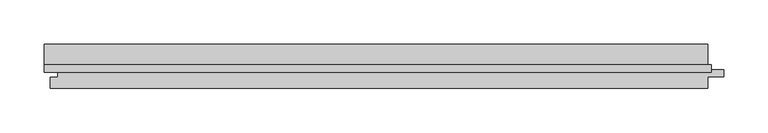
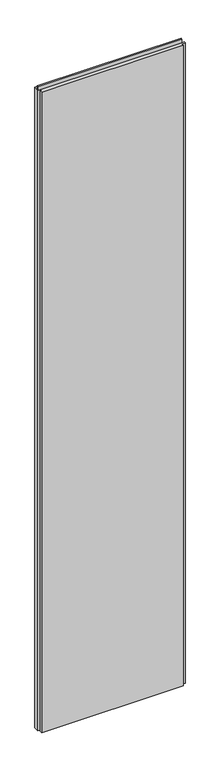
"""IFC4 building model written with IfcOpenShell, lengths in millimetres: plate geometry, Trimo_Qbiss Screen_Normal Panel-VERTICAL : HR - FB."""

from ifc_helpers import new_model, si_unit, frame, origin, place, context, project, spatial, polyline, outline, extrude, source, transform, mapped, element, save


def plate_2cf58c36(model_context):
    return source(origin(), model_context, "Body", "SweptSolid", [
        extrude(outline(polyline([(-425.0, 93.9), (-425.0, 102.6), (333.0, 102.6), (333.0, 93.9), (-425.0, 93.9)])), frame((0.0, 0.0, 3590.5), z_axis=(0.0, 0.0, 1.0), x_axis=(1.0, 0.0, 0.0)), (0.0, 0.0, 1.0), 19.0),
        extrude(outline(polyline([(329.0, 97.0), (347.5, 97.0), (347.5, 89.0), (329.0, 89.0), (329.0, 76.0), (-418.0, 76.0), (-418.0, 88.0), (-409.5, 88.0), (-409.5, 98.0), (-425.0, 98.0), (-425.0, 126.0), (329.0, 126.0), (329.0, 97.0)])), frame((0.0, 0.0, 12.5), z_axis=(0.0, 0.0, 1.0), x_axis=(1.0, 0.0, 0.0)), (0.0, 0.0, 1.0), 3575.0),
    ])


if __name__ == "__main__":
    model = new_model("IFC4")
    model_context = context("Model", 3, world=origin())
    ifc_project = project(units=[si_unit("LENGTHUNIT", "METRE", prefix="MILLI")], contexts=[model_context])
    site = spatial("IfcSite", under=ifc_project)
    building = spatial("IfcBuilding", under=site)
    placement = place(None, origin())
    plate_shape = plate_2cf58c36(model_context)
    element("IfcPlate", 1, ObjectType="Trimo_Qbiss Screen_Normal Panel-VERTICAL : HR - FB", at=placement, inside=building, context=model_context, shape_type="MappedRepresentation", body=[
        mapped(plate_shape, transform((0.0, 0.0, 0.0), x_axis=(1.0, 0.0, 0.0), y_axis=(0.0, 1.0, 0.0), z_axis=(0.0, 0.0, 1.0))),
    ])
    save(model, "model.ifc")
